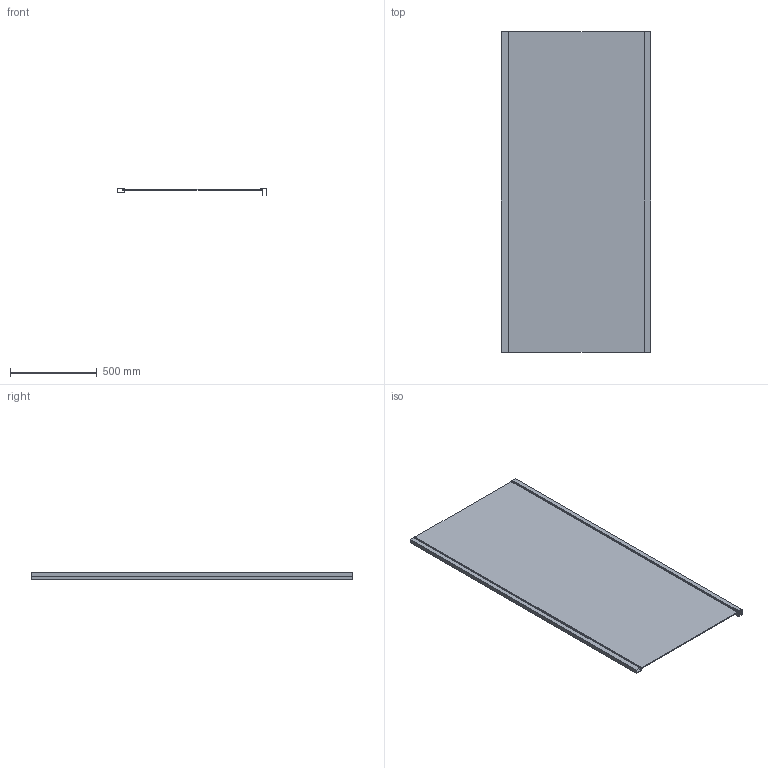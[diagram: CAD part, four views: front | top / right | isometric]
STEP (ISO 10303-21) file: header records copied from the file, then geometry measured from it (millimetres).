
FILE_DESCRIPTION(/* description */ (''),/* implementation_level */ '2;1');
FILE_NAME(/* name */ 'D:\Omnires\Export_Omnires\rys_step\5901867770066_stp.stp',/* time_stamp */ '2020-07-27T15:34:22+02:00',/* author */ (''),/* organization */ (''),/* preprocessor_version */ 'ST-DEVELOPER v18.1',/* originating_system */ 'Autodesk Inventor 2020',/* authorisation */ '');
FILE_SCHEMA (('AUTOMOTIVE_DESIGN { 1 0 10303 214 3 1 1 }'));
Length unit declared in the file: millimetre
Products named in the file (1): 5901867770066_dwg
Bounding box: 862.53 x 1850 x 40.24 mm (x, y, z)
Surface area: 4026133.2 mm2 (no closed solid volume)
Topology: 0 solids, 3 shells, 82 faces, 232 edges, 156 vertices
Faces by surface type: plane 82
Entity records: 2739 total; most frequent: CARTESIAN_POINT 471, ORIENTED_EDGE 464, DIRECTION 398, LINE 232, VECTOR 232, EDGE_CURVE 232, VERTEX_POINT 156, EDGE_LOOP 84
